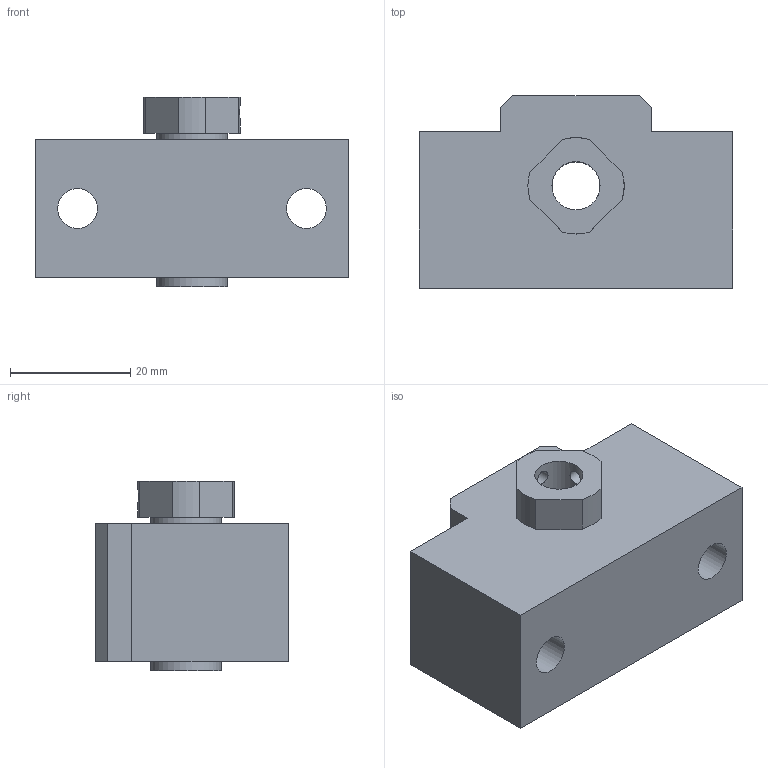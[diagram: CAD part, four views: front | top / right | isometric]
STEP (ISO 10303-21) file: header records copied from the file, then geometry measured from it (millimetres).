
FILE_DESCRIPTION(/* description */ (''),/* implementation_level */ '2;1');
FILE_NAME(/* name */ 'C:\Users\tenki620635\Desktop\官網\圖面\軸承座\3D\setp檔\EK08.stp',/* time_stamp */ '2020-12-18T19:19:30+08:00',/* author */ ('tenki620635'),/* organization */ (''),/* preprocessor_version */ 'ST-DEVELOPER v15.2',/* originating_system */ 'Autodesk Inventor 2014',/* authorisation */ '');
FILE_SCHEMA (('AUTOMOTIVE_DESIGN { 1 0 10303 214 3 1 1 }'));
Length unit declared in the file: millimetre
Products named in the file (1): EK08
Bounding box: 52 x 32 x 31.5 mm (x, y, z)
Volume: 30896.5 mm3; surface area: 9387.9 mm2
Topology: 1 solids, 1 shells, 36 faces, 90 edges, 61 vertices
Faces by surface type: plane 22, cylinder 14
Full cylindrical faces by diameter (mm): 2.459 x2, 6.6 x2, 8 x1, 11 x2, 11.7 x2, 16 x1
Entity records: 1165 total; most frequent: CARTESIAN_POINT 307, DIRECTION 168, ORIENTED_EDGE 152, EDGE_CURVE 76, EDGE_LOOP 62, AXIS2_PLACEMENT_3D 61, VERTEX_POINT 58, LINE 46
